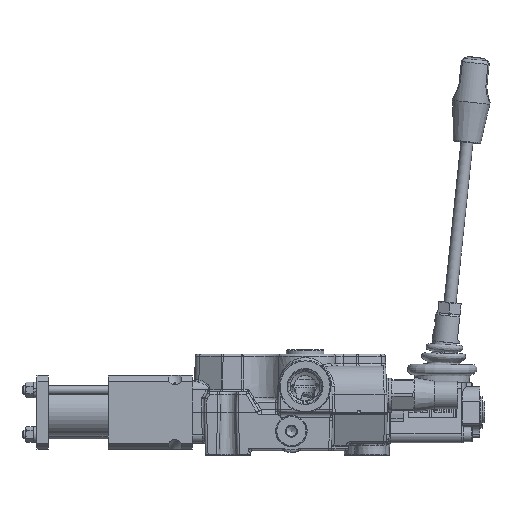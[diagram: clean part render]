
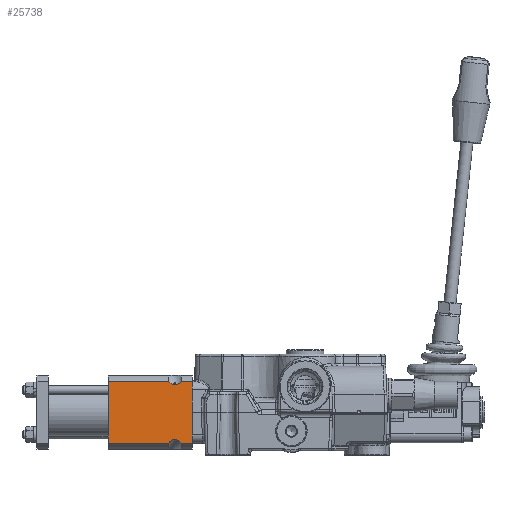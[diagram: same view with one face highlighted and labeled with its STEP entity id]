
A CAD part, left-side view. The second image highlights one B-rep face of the part: STEP entity #25738.
In plain terms, the highlighted planar face has unit normal (-1, 0, 0).
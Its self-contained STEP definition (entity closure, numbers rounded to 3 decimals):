
#1536=LINE('',#50431,#2843);
#1544=LINE('',#50460,#2851);
#1546=LINE('',#50478,#2853);
#1550=LINE('',#50520,#2857);
#1559=LINE('',#50542,#2866);
#1560=LINE('',#50546,#2867);
#2843=VECTOR('',#33002,1000.);
#2851=VECTOR('',#33024,1000.);
#2853=VECTOR('',#33048,1000.);
#2857=VECTOR('',#33068,1000.);
#2866=VECTOR('',#33093,1000.);
#2867=VECTOR('',#33098,1000.);
#3331=PLANE('',#27848);
#9754=ORIENTED_EDGE('',*,*,#12961,.F.);
#9755=ORIENTED_EDGE('',*,*,#12984,.F.);
#9756=ORIENTED_EDGE('',*,*,#12992,.F.);
#9757=ORIENTED_EDGE('',*,*,#12971,.T.);
#9758=ORIENTED_EDGE('',*,*,#12957,.F.);
#9759=ORIENTED_EDGE('',*,*,#13003,.T.);
#9760=ORIENTED_EDGE('',*,*,#13016,.F.);
#9761=ORIENTED_EDGE('',*,*,#13014,.F.);
#12957=EDGE_CURVE('',#15042,#15043,#15808,.T.);
#12961=EDGE_CURVE('',#15046,#15047,#15810,.T.);
#12971=EDGE_CURVE('',#15056,#15043,#1536,.T.);
#12984=EDGE_CURVE('',#15065,#15046,#1544,.T.);
#12992=EDGE_CURVE('',#15056,#15065,#1546,.T.);
#13003=EDGE_CURVE('',#15042,#15078,#1550,.T.);
#13014=EDGE_CURVE('',#15047,#15084,#1559,.T.);
#13016=EDGE_CURVE('',#15084,#15078,#1560,.T.);
#15042=VERTEX_POINT('',#50339);
#15043=VERTEX_POINT('',#50347);
#15046=VERTEX_POINT('',#50366);
#15047=VERTEX_POINT('',#50374);
#15056=VERTEX_POINT('',#50432);
#15065=VERTEX_POINT('',#50459);
#15078=VERTEX_POINT('',#50519);
#15084=VERTEX_POINT('',#50543);
#15808=B_SPLINE_CURVE_WITH_KNOTS('',3,(#50340,#50341,#50342,#50343,#50344,
#50345,#50346),.UNSPECIFIED.,.F.,.F.,(4,1,1,1,4),(0.028,0.03,
0.032,0.034,0.036),.UNSPECIFIED.);
#15810=B_SPLINE_CURVE_WITH_KNOTS('',3,(#50367,#50368,#50369,#50370,#50371,
#50372,#50373),.UNSPECIFIED.,.F.,.F.,(4,1,1,1,4),(0.034,0.036,
0.038,0.04,0.042),.UNSPECIFIED.);
#17097=EDGE_LOOP('',(#9754,#9755,#9756,#9757,#9758,#9759,#9760,#9761));
#18517=FACE_BOUND('',#17097,.T.);
#25738=ADVANCED_FACE('',(#18517),#3331,.T.);
#27848=AXIS2_PLACEMENT_3D('',#50545,#33096,#33097);
#33002=DIRECTION('',(0.,-1.,0.));
#33024=DIRECTION('',(0.,-1.,0.));
#33048=DIRECTION('',(0.,0.,1.));
#33068=DIRECTION('',(0.,-1.,0.));
#33093=DIRECTION('',(0.,-1.,0.));
#33096=DIRECTION('',(-1.,0.,0.));
#33097=DIRECTION('',(0.,0.,-1.));
#33098=DIRECTION('',(0.,0.,-1.));
#50339=CARTESIAN_POINT('',(-15.9,64.429,-17.977));
#50340=CARTESIAN_POINT('',(-15.9,64.429,-17.977));
#50341=CARTESIAN_POINT('',(-15.9,64.852,-17.402));
#50342=CARTESIAN_POINT('',(-15.9,65.88,-16.378));
#50343=CARTESIAN_POINT('',(-15.9,67.994,-15.69));
#50344=CARTESIAN_POINT('',(-15.9,70.13,-16.381));
#50345=CARTESIAN_POINT('',(-15.9,71.152,-17.407));
#50346=CARTESIAN_POINT('',(-15.9,71.571,-17.977));
#50347=CARTESIAN_POINT('',(-15.9,71.571,-17.977));
#50366=CARTESIAN_POINT('',(-15.9,71.571,17.977));
#50367=CARTESIAN_POINT('',(-15.9,71.571,17.977));
#50368=CARTESIAN_POINT('',(-15.9,71.149,17.404));
#50369=CARTESIAN_POINT('',(-15.9,70.121,16.378));
#50370=CARTESIAN_POINT('',(-15.9,68.004,15.69));
#50371=CARTESIAN_POINT('',(-15.9,65.875,16.38));
#50372=CARTESIAN_POINT('',(-15.9,64.853,17.4));
#50373=CARTESIAN_POINT('',(-15.9,64.429,17.977));
#50374=CARTESIAN_POINT('',(-15.9,64.429,17.977));
#50431=CARTESIAN_POINT('',(-15.9,113.7,-17.977));
#50432=CARTESIAN_POINT('',(-15.9,107.,-17.977));
#50459=CARTESIAN_POINT('',(-15.9,107.,17.977));
#50460=CARTESIAN_POINT('',(-15.9,113.7,17.977));
#50478=CARTESIAN_POINT('',(-15.9,107.,17.977));
#50519=CARTESIAN_POINT('',(-15.9,58.,-17.977));
#50520=CARTESIAN_POINT('',(-15.9,113.7,-17.977));
#50542=CARTESIAN_POINT('',(-15.9,113.7,17.977));
#50543=CARTESIAN_POINT('',(-15.9,58.,17.977));
#50545=CARTESIAN_POINT('',(-15.9,113.7,17.977));
#50546=CARTESIAN_POINT('',(-15.9,58.,17.977));
